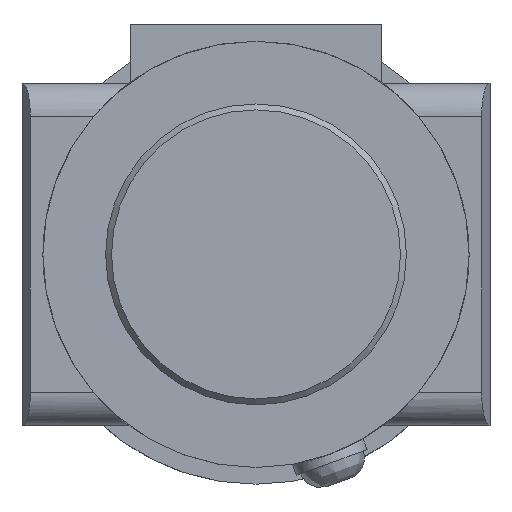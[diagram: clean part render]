
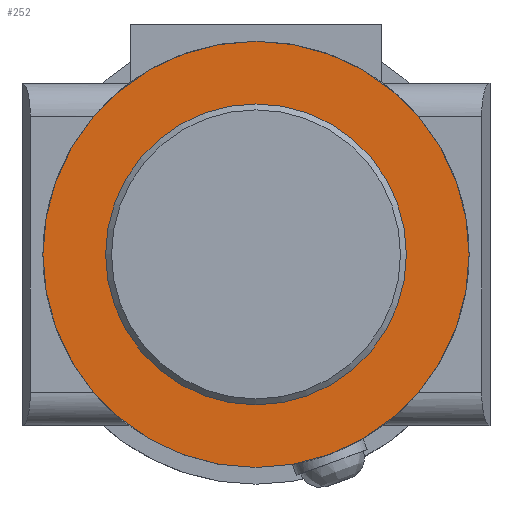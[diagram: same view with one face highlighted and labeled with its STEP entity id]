
A CAD part, left-side view. The second image highlights one B-rep face of the part: STEP entity #252.
In plain terms, the highlighted planar face has unit normal (-1, 0, 0).
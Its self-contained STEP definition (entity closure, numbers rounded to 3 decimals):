
#252 = ADVANCED_FACE( '', ( #690, #691 ), #692, .F. );
#690 = FACE_OUTER_BOUND( '', #1165, .T. );
#691 = FACE_BOUND( '', #1166, .T. );
#692 = PLANE( '', #1167 );
#1165 = EDGE_LOOP( '', ( #2594 ) );
#1166 = EDGE_LOOP( '', ( #2595 ) );
#1167 = AXIS2_PLACEMENT_3D( '', #2596, #2597, #2598 );
#2594 = ORIENTED_EDGE( '', *, *, #3129, .F. );
#2595 = ORIENTED_EDGE( '', *, *, #3300, .T. );
#2596 = CARTESIAN_POINT( '', ( 2., 18., 0. ) );
#2597 = DIRECTION( '', ( 1., 0., 0. ) );
#2598 = DIRECTION( '', ( 0., 0., -1. ) );
#3129 = EDGE_CURVE( '', #3804, #3804, #3805, .T. );
#3300 = EDGE_CURVE( '', #4092, #4092, #4093, .T. );
#3804 = VERTEX_POINT( '', #4970 );
#3805 = CIRCLE( '', #4971, 25.5 );
#4092 = VERTEX_POINT( '', #5487 );
#4093 = CIRCLE( '', #5488, 18. );
#4970 = CARTESIAN_POINT( '', ( 2., 0., -25.5 ) );
#4971 = AXIS2_PLACEMENT_3D( '', #5877, #5878, #5879 );
#5487 = CARTESIAN_POINT( '', ( 2., 0., -18. ) );
#5488 = AXIS2_PLACEMENT_3D( '', #6169, #6170, #6171 );
#5877 = CARTESIAN_POINT( '', ( 2., 0., 0. ) );
#5878 = DIRECTION( '', ( 1., 0., 0. ) );
#5879 = DIRECTION( '', ( 0., 0., -1. ) );
#6169 = CARTESIAN_POINT( '', ( 2., 0., 0. ) );
#6170 = DIRECTION( '', ( 1., 0., 0. ) );
#6171 = DIRECTION( '', ( 0., 0., -1. ) );
